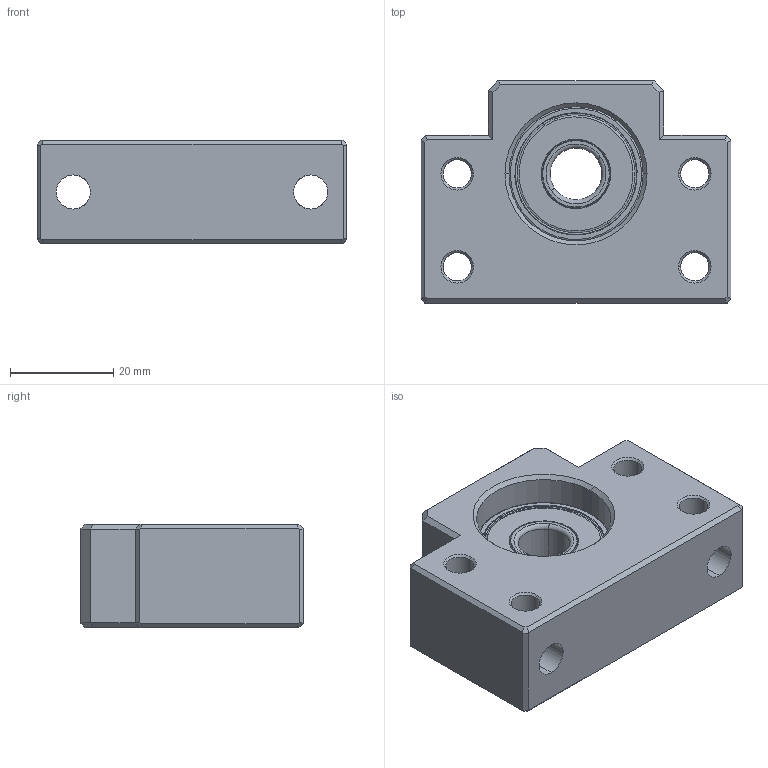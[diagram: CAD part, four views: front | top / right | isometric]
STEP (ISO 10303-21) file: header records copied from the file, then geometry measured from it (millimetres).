
FILE_DESCRIPTION (( 'STEP AP203' ), '1' );
FILE_NAME ('BF12²Õ¦X¥ó.STEP', '2017-12-27T08:15:17', ( '' ), ( '' ), 'SwSTEP 2.0', 'SolidWorks 2017', '' );
FILE_SCHEMA (( 'CONFIG_CONTROL_DESIGN' ));
Length unit declared in the file: millimetre
Products named in the file (1): BF12組合件
Bounding box: 60 x 43 x 20 mm (x, y, z)
Surface area: 12279.1 mm2 (no closed solid volume)
Topology: 0 solids, 6 shells, 153 faces, 388 edges, 240 vertices
Faces by surface type: plane 55, cylinder 42, torus 32, cone 24
Entity records: 5196 total; most frequent: CARTESIAN_POINT 1334, DIRECTION 832, ORIENTED_EDGE 756, EDGE_CURVE 388, AXIS2_PLACEMENT_3D 322, VERTEX_POINT 240, LINE 188, VECTOR 188
